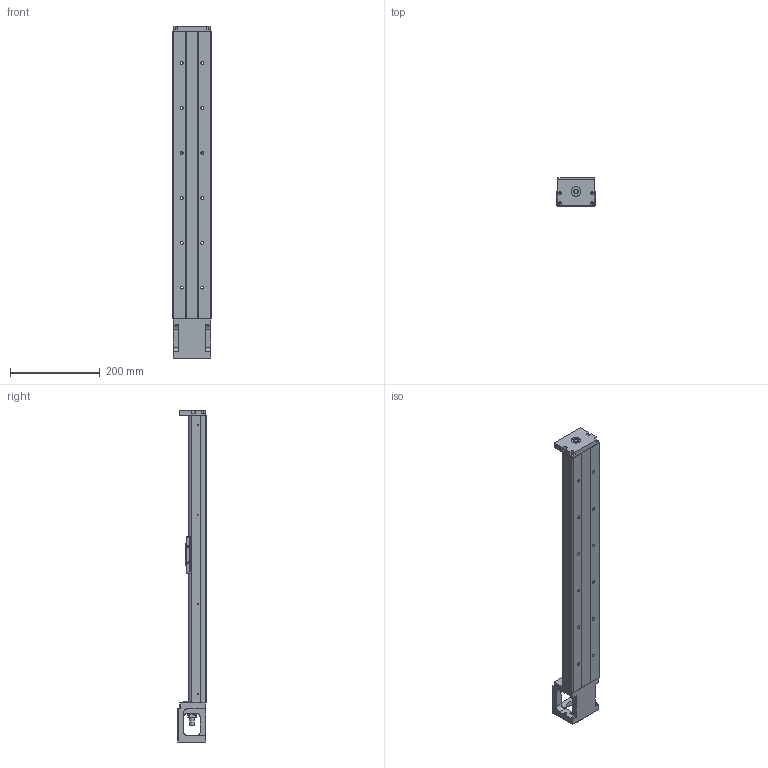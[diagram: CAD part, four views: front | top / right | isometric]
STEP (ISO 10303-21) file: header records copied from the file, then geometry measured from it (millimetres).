
FILE_DESCRIPTION(/* description */ (''),/* implementation_level */ '2;1');
FILE_NAME(/* name */ 'KP46S-640-D.stp',/* time_stamp */ '2020-06-05T10:38:35+08:00',/* author */ (''),/* organization */ (''),/* preprocessor_version */ 'ST-DEVELOPER v14',/* originating_system */ 'SIEMENS PLM Software NX 8.0',/* authorisation */ '');
FILE_SCHEMA (('AUTOMOTIVE_DESIGN { 1 0 10303 214 3 1 1 1 }'));
Length unit declared in the file: millimetre
Products named in the file (1): model1
Bounding box: 86 x 64 x 740 mm (x, y, z)
Volume: 1463711.3 mm3; surface area: 325108.8 mm2
Topology: 5 solids, 16 shells, 637 faces, 1676 edges, 1104 vertices
Faces by surface type: plane 286, cylinder 230, cone 60, bspline 53, torus 8
Full cylindrical faces by diameter (mm): 2 x2, 2.11 x2, 2.15 x8, 2.42 x6, 3 x4, 3.2 x4, 3.3 x8, 3.4 x8, 4 x2, 4.2 x4, 4.5 x8, 5 x6, 6 x8, 6.35 x2, 6.6 x12, 6.7 x2, 8.7 x4, 9.6 x1, 10 x4, 11 x12, 12 x1, 14.95 x2, 15 x1, 16 x2, 22 x3, 27.5 x1, 44 x1, 50 x1
Entity records: 29987 total; most frequent: CARTESIAN_POINT 13110, ORIENTED_EDGE 2866, DIRECTION 2730, EDGE_CURVE 1433, VERTEX_POINT 1032, AXIS2_PLACEMENT_3D 1028, EDGE_LOOP 901, LINE 674
